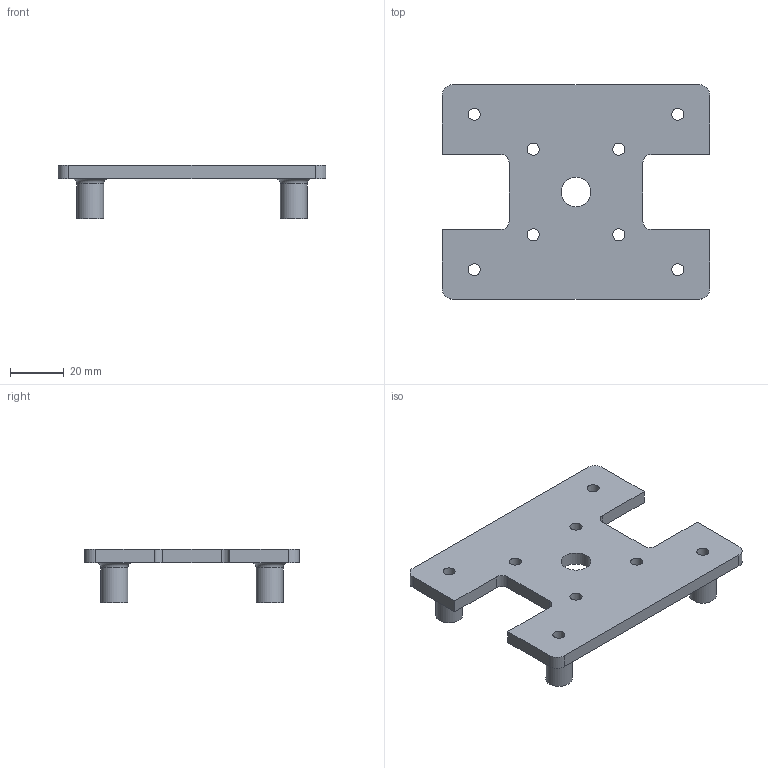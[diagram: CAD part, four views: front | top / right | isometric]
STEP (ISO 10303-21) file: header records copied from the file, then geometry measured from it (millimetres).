
FILE_DESCRIPTION(('Open CASCADE Model'),'2;1');
FILE_NAME('Open CASCADE Shape Model','2026-10-26T10:57:26',('Author'),( 'Open CASCADE'),'Open CASCADE STEP processor 7.8','Open CASCADE 7.8' ,'Unknown');
FILE_SCHEMA(('AUTOMOTIVE_DESIGN { 1 0 10303 214 1 1 1 1 }'));
Length unit declared in the file: millimetre
Products named in the file (1): Open CASCADE STEP translator 7.8 1
Bounding box: 100 x 80 x 20 mm (x, y, z)
Volume: 35734.3 mm3; surface area: 18354.1 mm2
Topology: 1 solids, 1 shells, 43 faces, 107 edges, 70 vertices
Faces by surface type: cylinder 21, plane 18, torus 4
Full cylindrical faces by diameter (mm): 4.5 x8, 10 x4, 11 x1
Entity records: 2788 total; most frequent: CARTESIAN_POINT 563, DIRECTION 431, LINE 221, VECTOR 221, ORIENTED_EDGE 214, PCURVE 214, DEFINITIONAL_REPRESENTATION 214, EDGE_CURVE 107
